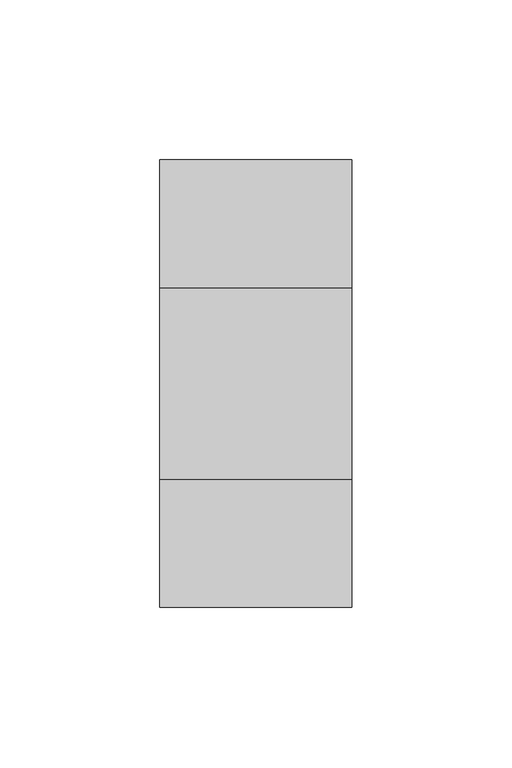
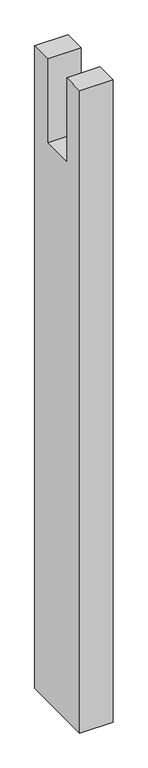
"""IFC4 building model written with IfcOpenShell, lengths in millimetres: proxy geometry, Modelos genéricos 109 : Modelos genéricos 11."""

from ifc_helpers import new_model, si_unit, frame, origin, place, context, project, spatial, polyline, outline, extrude, source, transform, mapped, element, save


def generic_models_b4ce7ea5(model_context):
    return source(origin(), model_context, "Body", "SweptSolid", [
        extrude(outline(polyline([(2018.6238165, 3160.0), (1878.6238165, 3160.0), (1878.6238165, 4380.0), (1918.6238165, 4380.0), (1918.6238165, 4220.0), (1978.6238165, 4220.0), (1978.6238165, 4380.0), (2018.6238165, 4380.0), (2018.6238165, 3160.0)])), frame((5573.4472467, 0.0, 0.0), z_axis=(1.0, 0.0, 0.0), x_axis=(0.0, 1.0, 0.0)), (0.0, 0.0, 1.0), 60.0),
    ])


if __name__ == "__main__":
    model = new_model("IFC4")
    model_context = context("Model", 3, world=origin())
    ifc_project = project(units=[si_unit("LENGTHUNIT", "METRE", prefix="MILLI")], contexts=[model_context])
    site = spatial("IfcSite", under=ifc_project)
    building = spatial("IfcBuilding", under=site)
    placement = place(None, origin())
    generic_models_shape = generic_models_b4ce7ea5(model_context)
    element("IfcBuildingElementProxy", 1, Name="Modelos genéricos 109 : Modelos genéricos 11", ObjectType="Modelos genéricos 109 : Modelos genéricos 11", at=placement, inside=building, context=model_context, shape_type="MappedRepresentation", body=[
        mapped(generic_models_shape, transform((0.0, 0.0, 0.0), x_axis=(1.0, 0.0, 0.0), y_axis=(0.0, 1.0, 0.0), z_axis=(0.0, 0.0, 1.0))),
    ])
    save(model, "model.ifc")
